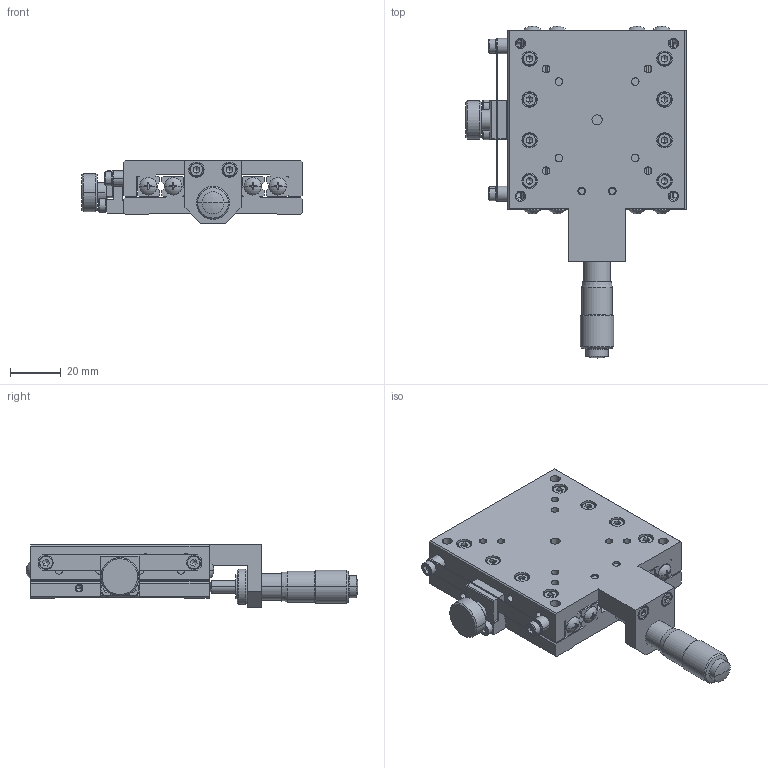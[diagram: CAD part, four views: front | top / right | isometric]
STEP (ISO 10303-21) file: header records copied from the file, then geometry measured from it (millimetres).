
FILE_DESCRIPTION (( 'STEP AP214' ), '1' );
FILE_NAME ('XM07A-C1Z-R.STEP', '2009-05-11T05:28:42', ( ' ' ), ( ' ' ), 'SwSTEP 2.0', 'SolidWorks 2008', '' );
FILE_SCHEMA (( 'AUTOMOTIVE_DESIGN' ));
Length unit declared in the file: millimetre
Products named in the file (5): 001490-1023(3D)-Part-1; 001490-1023(3D); 001490-1023(3D)-Part-2; 001490-1011(3D); XM07A-C1Z-R
Assembly tree (4 placements, depth 3):
  XM07A-C1Z-R
    001490-1023(3D)
      001490-1023(3D)-Part-1
      001490-1023(3D)-Part-2
    001490-1011(3D)
Bounding box: 86.5 x 130.37 x 24.5 mm (x, y, z)
Volume: 95798.7 mm3; surface area: 49474.1 mm2
Topology: 3 solids, 40 shells, 1693 faces, 4007 edges, 2394 vertices
Faces by surface type: plane 771, cylinder 538, cone 348, sphere 20, torus 16
Entity records: 48874 total; most frequent: CARTESIAN_POINT 9063, DIRECTION 8848, ORIENTED_EDGE 7846, EDGE_CURVE 3923, AXIS2_PLACEMENT_3D 3393, VERTEX_POINT 2394, VECTOR 2062, LINE 2062
